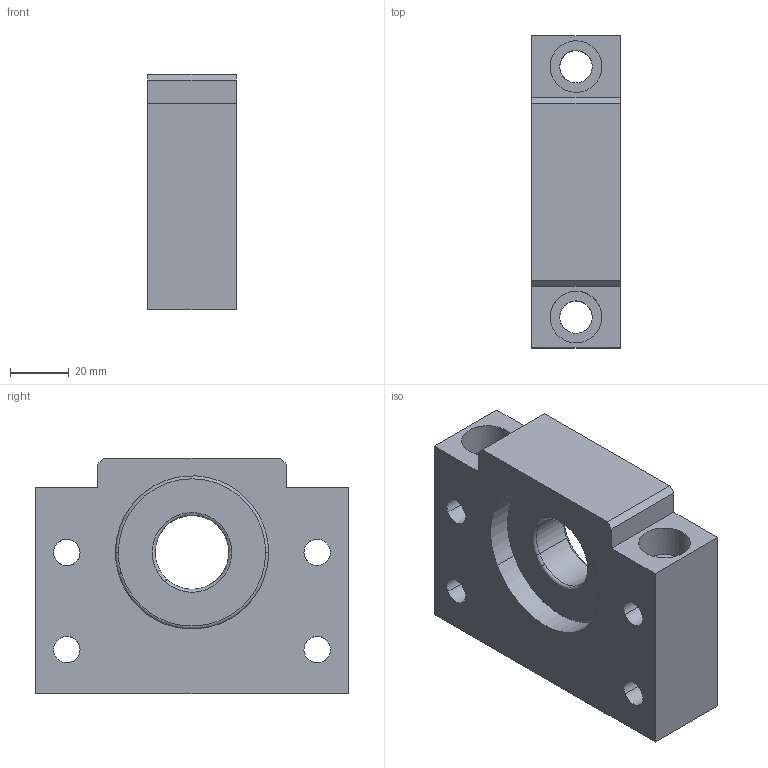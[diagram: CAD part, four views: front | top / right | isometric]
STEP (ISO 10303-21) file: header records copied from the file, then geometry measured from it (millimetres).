
FILE_DESCRIPTION(('CATIA V5 STEP Exchange'),'2;1');
FILE_NAME('D:\서포트 완성도면\BF\BF25.stp','2014-01-28T11:10:30+00:00',('none'),('none'),'CATIA Version 5 Release 18 GA (IN-10)','CATIA V5 STEP AP203','none');
FILE_SCHEMA(('CONFIG_CONTROL_DESIGN'));
Length unit declared in the file: millimetre
Products named in the file (1): BF25
Assembly tree (2 placements, depth 2):
  BF25
    #56
    #2323
Bounding box: 30 x 106 x 80 mm (x, y, z)
Volume: 180757.1 mm3; surface area: 40766.4 mm2
Topology: 2 solids, 2 shells, 58 faces, 172 edges, 112 vertices
Faces by surface type: cylinder 30, plane 16, torus 12
Entity records: 2937 total; most frequent: CARTESIAN_POINT 1436, ORIENTED_EDGE 344, DIRECTION 207, EDGE_CURVE 172, VERTEX_POINT 112, AXIS2_PLACEMENT_3D 87, EDGE_LOOP 76, B_SPLINE_CURVE_WITH_KNOTS 69
